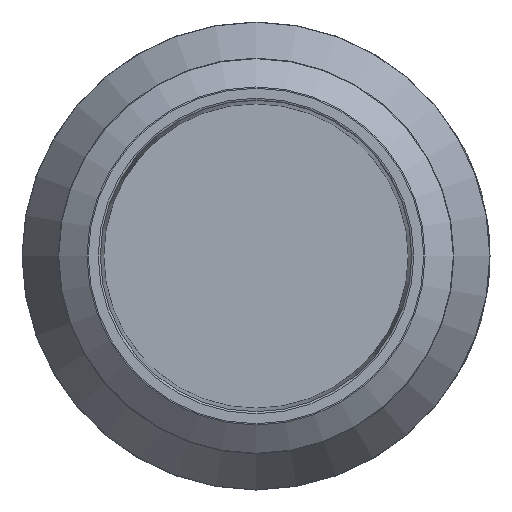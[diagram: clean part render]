
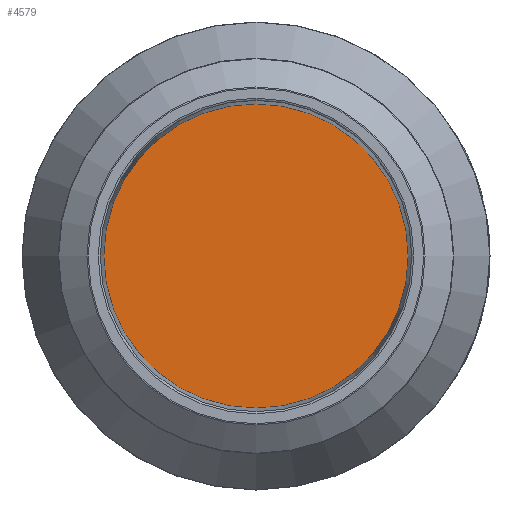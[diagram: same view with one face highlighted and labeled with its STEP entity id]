
A CAD part, left-side view. The second image highlights one B-rep face of the part: STEP entity #4579.
In plain terms, the highlighted planar face has unit normal (-1, 0, 0).
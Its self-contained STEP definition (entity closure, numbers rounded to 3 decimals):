
#78=PLANE('',#4829);
#1000=ORIENTED_EDGE('',*,*,#1946,.T.);
#1946=EDGE_CURVE('',#2421,#2421,#2651,.T.);
#2421=VERTEX_POINT('',#6294);
#2651=CIRCLE('',#4830,18.582);
#2734=EDGE_LOOP('',(#1000));
#2975=FACE_BOUND('',#2734,.T.);
#4579=ADVANCED_FACE('',(#2975),#78,.T.);
#4829=AXIS2_PLACEMENT_3D('',#6292,#5177,#5178);
#4830=AXIS2_PLACEMENT_3D('',#6293,#5179,#5180);
#5177=DIRECTION('',(-1.,0.,0.));
#5178=DIRECTION('',(0.,0.,1.));
#5179=DIRECTION('',(-1.,0.,0.));
#5180=DIRECTION('',(0.,0.,1.));
#6292=CARTESIAN_POINT('',(6.35,0.,0.));
#6293=CARTESIAN_POINT('',(6.35,0.,0.));
#6294=CARTESIAN_POINT('',(6.35,0.,18.582));
